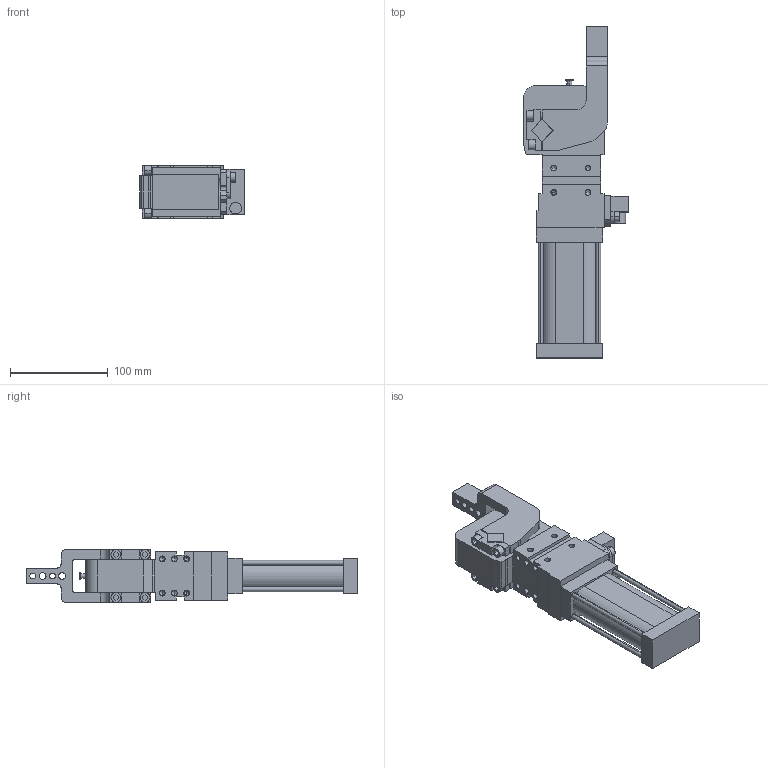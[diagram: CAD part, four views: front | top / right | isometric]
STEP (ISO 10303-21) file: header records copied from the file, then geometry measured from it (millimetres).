
FILE_DESCRIPTION (( 'STEP AP214' ), '1' );
FILE_NAME ('cpl40h3csi1g_16.STEP', '2021-05-25T10:51:04', ( '' ), ( '' ), 'SwSTEP 2.0', 'SolidWorks 2021', '' );
FILE_SCHEMA (( 'AUTOMOTIVE_DESIGN' ));
Length unit declared in the file: millimetre
Products named in the file (5): meccanica_cpl40; leva_v3c_cpl40; blocchetto_VEP_0_cpl40; cpl40h3csi1g_16; piastra_blocchetto_cpl40
Assembly tree (4 placements, depth 2):
  cpl40h3csi1g_16
    meccanica_cpl40
    leva_v3c_cpl40
    blocchetto_VEP_0_cpl40
    piastra_blocchetto_cpl40
Bounding box: 107.5 x 340 x 54 mm (x, y, z)
Volume: 789972.3 mm3; surface area: 122257.8 mm2
Topology: 5 solids, 5 shells, 446 faces, 1142 edges, 717 vertices
Faces by surface type: plane 248, cylinder 150, cone 48
Entity records: 14753 total; most frequent: DIRECTION 2332, CARTESIAN_POINT 2266, ORIENTED_EDGE 2192, EDGE_CURVE 1096, AXIS2_PLACEMENT_3D 783, VECTOR 766, LINE 766, VERTEX_POINT 717
